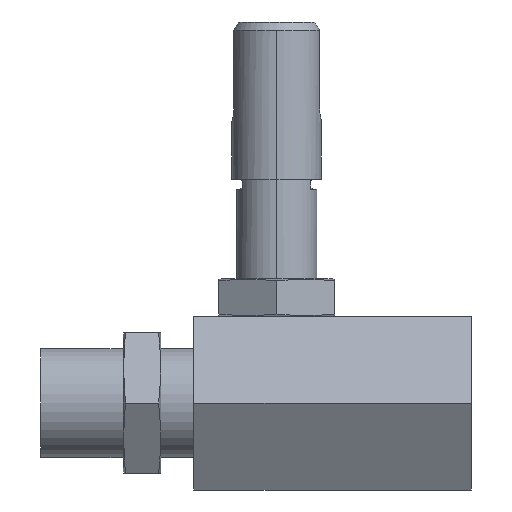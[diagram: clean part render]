
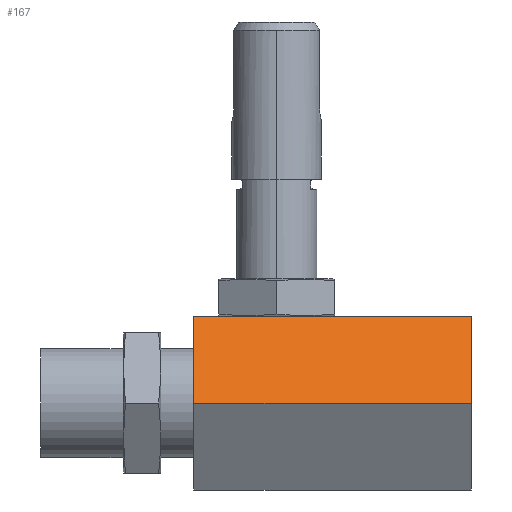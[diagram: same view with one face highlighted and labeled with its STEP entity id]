
A CAD part, left-side view. The second image highlights one B-rep face of the part: STEP entity #167.
In plain terms, the highlighted planar face has unit normal (-0.866, 0, 0.5).
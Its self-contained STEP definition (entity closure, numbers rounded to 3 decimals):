
#167 = ADVANCED_FACE ( 'NONE', ( #789 ), #4209, .F. ) ;
#274 = EDGE_LOOP ( 'NONE', ( #5465, #5466, #5467, #5468 ) ) ;
#789 = FACE_OUTER_BOUND ( 'NONE', #274, .T. ) ;
#811 = LINE ( 'NONE', #3683, #838 ) ;
#816 = LINE ( 'NONE', #3712, #817 ) ;
#817 = VECTOR ( 'NONE', #3711, 1000. ) ;
#838 = VECTOR ( 'NONE', #3680, 1000. ) ;
#839 = LINE ( 'NONE', #3675, #847 ) ;
#842 = LINE ( 'NONE', #3677, #843 ) ;
#843 = VECTOR ( 'NONE', #3676, 1000. ) ;
#847 = VECTOR ( 'NONE', #3666, 1000. ) ;
#1573 = VERTEX_POINT ( 'NONE', #4184 ) ;
#1577 = VERTEX_POINT ( 'NONE', #4190 ) ;
#1609 = VERTEX_POINT ( 'NONE', #4179 ) ;
#1612 = VERTEX_POINT ( 'NONE', #4178 ) ;
#3246 = CARTESIAN_POINT ( 'NONE',  ( -12.124, 33.5, 0. ) ) ;
#3666 = DIRECTION ( 'NONE',  ( 0.5, 0., 0.866 ) ) ;
#3675 = CARTESIAN_POINT ( 'NONE',  ( -12.124, 0., 0. ) ) ;
#3676 = DIRECTION ( 'NONE',  ( 0., -1., 0. ) ) ;
#3677 = CARTESIAN_POINT ( 'NONE',  ( -6.062, 33.5, 10.5 ) ) ;
#3680 = DIRECTION ( 'NONE',  ( 0., -1., 0. ) ) ;
#3683 = CARTESIAN_POINT ( 'NONE',  ( -12.124, 33.5, 0. ) ) ;
#3711 = DIRECTION ( 'NONE',  ( 0.5, 0., 0.866 ) ) ;
#3712 = CARTESIAN_POINT ( 'NONE',  ( -12.124, 33.5, 0. ) ) ;
#4178 = CARTESIAN_POINT ( 'NONE',  ( -12.124, 0., 0. ) ) ;
#4179 = CARTESIAN_POINT ( 'NONE',  ( -6.062, 0., 10.5 ) ) ;
#4184 = CARTESIAN_POINT ( 'NONE',  ( -6.062, 33.5, 10.5 ) ) ;
#4190 = CARTESIAN_POINT ( 'NONE',  ( -12.124, 33.5, 0. ) ) ;
#4199 = DIRECTION ( 'NONE',  ( -0.5, 0., -0.866 ) ) ;
#4200 = DIRECTION ( 'NONE',  ( 0.866, 0., -0.5 ) ) ;
#4209 = PLANE ( 'NONE',  #5170 ) ;
#4663 = EDGE_CURVE ( 'NONE', #1577, #1573, #816, .T. ) ;
#4676 = EDGE_CURVE ( 'NONE', #1577, #1612, #811, .T. ) ;
#4678 = EDGE_CURVE ( 'NONE', #1573, #1609, #842, .T. ) ;
#4681 = EDGE_CURVE ( 'NONE', #1612, #1609, #839, .T. ) ;
#5170 = AXIS2_PLACEMENT_3D ( 'NONE', #3246, #4200, #4199 ) ;
#5465 = ORIENTED_EDGE ( 'NONE', *, *, #4681, .T. ) ;
#5466 = ORIENTED_EDGE ( 'NONE', *, *, #4678, .F. ) ;
#5467 = ORIENTED_EDGE ( 'NONE', *, *, #4663, .F. ) ;
#5468 = ORIENTED_EDGE ( 'NONE', *, *, #4676, .T. ) ;
